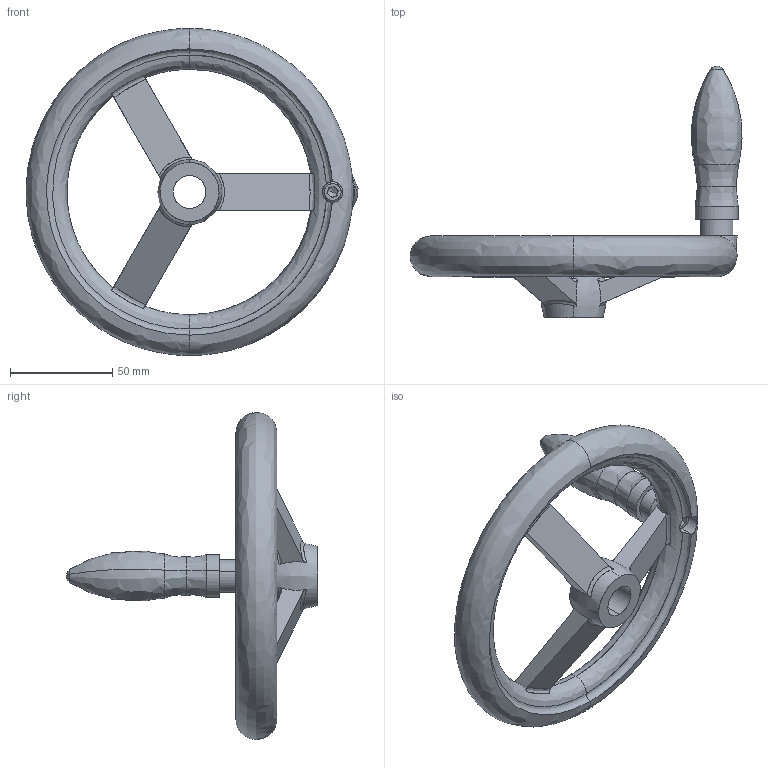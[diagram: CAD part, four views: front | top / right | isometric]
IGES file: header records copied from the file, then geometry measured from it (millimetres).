
Start section: SolidWorks IGES file using analytic representation for surfaces
Global section: file name: C:\Users\IanO\Desktop\Temp File\Process pending\77120_v2\77120_v2_20171108_IGES\77120.W0221.igs; native system: SolidWorks 2017; preprocessor: SolidWorks 2017; author: IanO; date: 171108.084354; units: millimetre
Bounding box: 162.38 x 123 x 160 mm (x, y, z)
Surface area: 50013.8 mm2 (no closed solid volume)
Topology: 0 solids, 0 shells, 140 faces, 1848 edges, 1839 vertices
Faces by surface type: bspline 82, revolution 58
